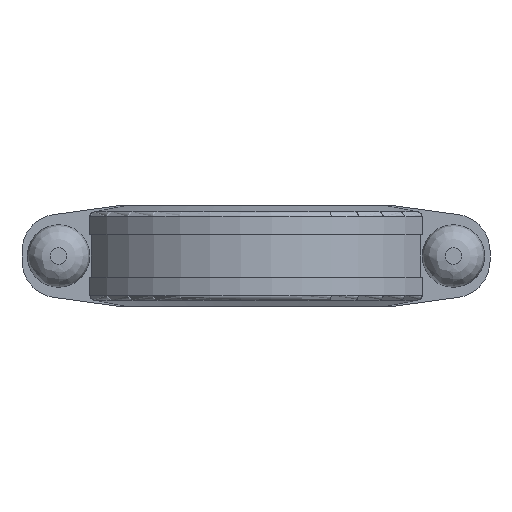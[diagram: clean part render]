
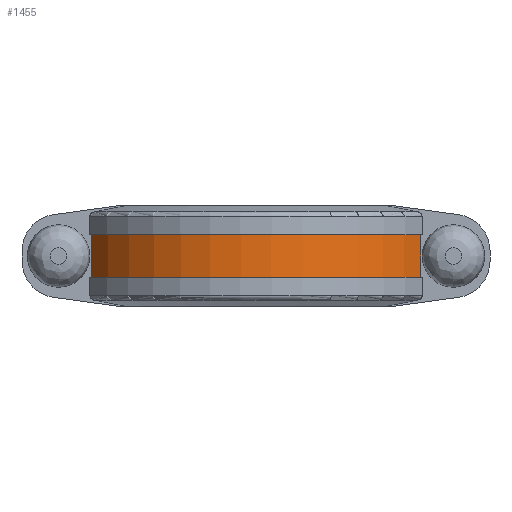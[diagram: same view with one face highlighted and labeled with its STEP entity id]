
A CAD part, front view. The second image highlights one B-rep face of the part: STEP entity #1455.
In plain terms, the highlighted cylindrical face has radius 113.538 mm (diameter 227.076 mm), a partial arc.
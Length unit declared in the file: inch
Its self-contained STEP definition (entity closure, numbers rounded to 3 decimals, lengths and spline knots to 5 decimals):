
#141=FACE_OUTER_BOUND('',#226,.T.);
#226=EDGE_LOOP('',(#1166,#1167,#1168,#1169));
#302=CIRCLE('',#1591,4.47);
#303=CIRCLE('',#1592,4.47);
#350=LINE('',#2129,#469);
#428=LINE('',#2485,#547);
#469=VECTOR('',#1699,0.3937);
#547=VECTOR('',#1897,0.3937);
#592=VERTEX_POINT('',#2126);
#593=VERTEX_POINT('',#2128);
#678=VERTEX_POINT('',#2482);
#679=VERTEX_POINT('',#2484);
#730=EDGE_CURVE('',#593,#592,#350,.T.);
#848=EDGE_CURVE('',#679,#678,#428,.T.);
#856=EDGE_CURVE('',#592,#679,#302,.T.);
#857=EDGE_CURVE('',#593,#678,#303,.T.);
#1166=ORIENTED_EDGE('',*,*,#730,.T.);
#1167=ORIENTED_EDGE('',*,*,#856,.T.);
#1168=ORIENTED_EDGE('',*,*,#848,.T.);
#1169=ORIENTED_EDGE('',*,*,#857,.F.);
#1321=CYLINDRICAL_SURFACE('',#1590,4.47);
#1455=ADVANCED_FACE('',(#141),#1321,.T.);
#1590=AXIS2_PLACEMENT_3D('',#2509,#1910,#1911);
#1591=AXIS2_PLACEMENT_3D('',#2510,#1912,#1913);
#1592=AXIS2_PLACEMENT_3D('',#2511,#1914,#1915);
#1699=DIRECTION('',(0.,0.,-1.));
#1897=DIRECTION('',(0.,0.,1.));
#1910=DIRECTION('center_axis',(0.,0.,1.));
#1911=DIRECTION('ref_axis',(-1.,0.,0.));
#1912=DIRECTION('center_axis',(0.,0.,1.));
#1913=DIRECTION('ref_axis',(-1.,0.,0.));
#1914=DIRECTION('center_axis',(0.,0.,1.));
#1915=DIRECTION('ref_axis',(-1.,0.,0.));
#2126=CARTESIAN_POINT('',(-3.91348,-2.16,-0.5));
#2128=CARTESIAN_POINT('',(-3.91348,-2.16,0.5));
#2129=CARTESIAN_POINT('',(-3.91348,-2.16,0.));
#2482=CARTESIAN_POINT('',(3.91348,-2.16,0.5));
#2484=CARTESIAN_POINT('',(3.91348,-2.16,-0.5));
#2485=CARTESIAN_POINT('',(3.91348,-2.16,0.));
#2509=CARTESIAN_POINT('Origin',(0.,0.,
0.));
#2510=CARTESIAN_POINT('Origin',(0.,0.,
-0.5));
#2511=CARTESIAN_POINT('Origin',(0.,0.,
0.5));
